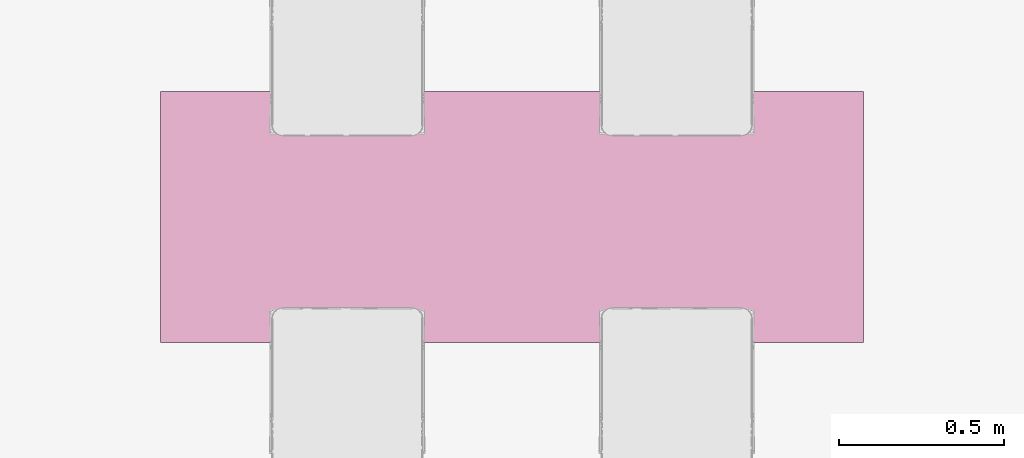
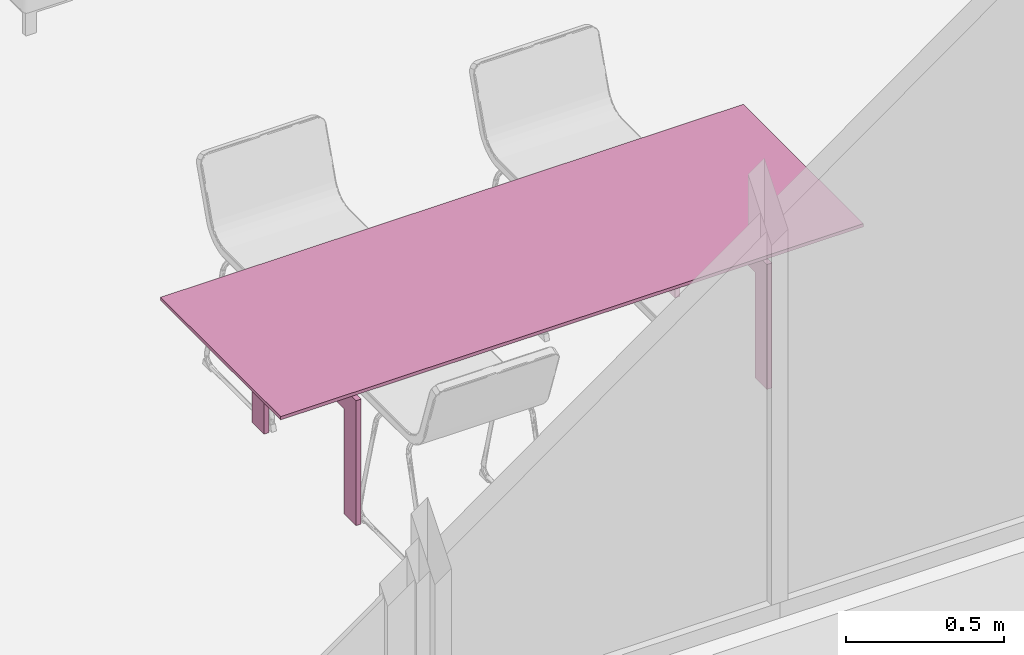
# One storey, part 27 of 40: 1 furnishing.
"""IFC2X3 building model written with IfcOpenShell, lengths in metres."""

from ifc_helpers import new_model, entity, si_unit, converted_unit, derived_unit, direction, frame, frame_2d, origin, origin_2d_with_axis, place, context, subcontext, project, spatial, polyline, rectangle, outline, extrude, source, transform, mapped, material, material_list, type_object, type_shapes, element, save


model = new_model("IFC2X3")

# Units and contexts
model_context = context("Model", 3, precision=1e-05, world=origin(), true_north=direction((6.12303176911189e-17, 1.0)))
body_context = subcontext(model_context, "Body", "Model", "MODEL_VIEW")
ifc_project = project(units=[si_unit("LENGTHUNIT", "METRE"), si_unit("AREAUNIT", "SQUARE_METRE"), si_unit("VOLUMEUNIT", "CUBIC_METRE"), converted_unit("PLANEANGLEUNIT", "DEGREE", entity("IfcRatioMeasure", 0.0174532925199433), si_unit("PLANEANGLEUNIT", "RADIAN"), dimensions=[0, 0, 0, 0, 0, 0, 0]), si_unit("MASSUNIT", "GRAM", prefix="KILO"), derived_unit("MASSDENSITYUNIT", [(si_unit("MASSUNIT", "GRAM", prefix="KILO"), 1), (si_unit("LENGTHUNIT", "METRE"), -3)]), si_unit("TIMEUNIT", "SECOND"), si_unit("FREQUENCYUNIT", "HERTZ"), si_unit("THERMODYNAMICTEMPERATUREUNIT", "DEGREE_CELSIUS"), derived_unit("THERMALTRANSMITTANCEUNIT", [(si_unit("MASSUNIT", "GRAM", prefix="KILO"), 1), (si_unit("THERMODYNAMICTEMPERATUREUNIT", "KELVIN"), -1), (si_unit("TIMEUNIT", "SECOND"), -3)]), derived_unit("VOLUMETRICFLOWRATEUNIT", [(si_unit("LENGTHUNIT", "METRE"), 3), (si_unit("TIMEUNIT", "SECOND"), -1)]), si_unit("ELECTRICCURRENTUNIT", "AMPERE"), si_unit("ELECTRICVOLTAGEUNIT", "VOLT"), si_unit("POWERUNIT", "WATT"), si_unit("FORCEUNIT", "NEWTON", prefix="KILO"), si_unit("ILLUMINANCEUNIT", "LUX"), si_unit("LUMINOUSFLUXUNIT", "LUMEN"), si_unit("LUMINOUSINTENSITYUNIT", "CANDELA"), derived_unit("USERDEFINED", [(si_unit("MASSUNIT", "GRAM", prefix="KILO"), -1), (si_unit("LENGTHUNIT", "METRE"), -2), (si_unit("TIMEUNIT", "SECOND"), 3), (si_unit("LUMINOUSFLUXUNIT", "LUMEN"), 1)]), derived_unit("LINEARVELOCITYUNIT", [(si_unit("LENGTHUNIT", "METRE"), 1), (si_unit("TIMEUNIT", "SECOND"), -1)]), si_unit("PRESSUREUNIT", "PASCAL"), derived_unit("USERDEFINED", [(si_unit("LENGTHUNIT", "METRE"), -2), (si_unit("MASSUNIT", "GRAM", prefix="KILO"), 1), (si_unit("TIMEUNIT", "SECOND"), -2)])], contexts=[model_context])

# Site, building, storey, space
site_placement = place(None, origin())
site = spatial("IfcSite", under=ifc_project, at=site_placement, Name="Surface", CompositionType="ELEMENT")
building_placement = place(site_placement, origin())
building = spatial("IfcBuilding", under=site, at=building_placement, CompositionType="ELEMENT")
storey_placement = place(building_placement, origin())
storey = spatial("IfcBuildingStorey", under=building, at=storey_placement, Name="RDC", CompositionType="ELEMENT", Elevation=-1.0941605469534e-13)
space_placement = place(storey_placement, origin())
space = spatial("IfcSpace", under=storey, at=space_placement, Name="20", CompositionType="ELEMENT", InteriorOrExteriorSpace="INTERNAL")

# Furnishing
ifc_material_1 = material(Name="Verre - Givré")
ifc_material_2 = material(Name="Métal - Chrome")
ifc_material_list_1 = material_list([ifc_material_1, ifc_material_2])
ifc_material_list_2 = material_list([ifc_material_1, ifc_material_2])
furniture_type = type_object("IfcFurnitureType", Name="762mm x 2134mm", material=ifc_material_list_2)
shared_shape = source(origin(), body_context, "Body", "SweptSolid", [
    extrude(rectangle(XDim=2.134, YDim=0.762000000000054, at=origin_2d_with_axis()), frame((0.0182657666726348, 0.0952110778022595, 0.5473), z_axis=(0.0, 0.0, 1.0), x_axis=(-1.0, 0.0, 0.0)), (0.0, 0.0, 1.0), 0.0127),
    extrude(rectangle(XDim=1.9308, YDim=0.0254, at=frame_2d((0.0, -1.73472347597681e-17), x_axis=(1.0, 0.0))), frame((0.0182657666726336, 0.285082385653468, 0.483800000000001), z_axis=(0.0, 0.0, 1.0), x_axis=(-1.0, 0.0, 0.0)), (0.0, 0.0, 1.0), 0.0635),
    extrude(rectangle(XDim=1.9308, YDim=0.0254, at=origin_2d_with_axis()), frame((0.0182657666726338, -0.0952889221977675, 0.4838), z_axis=(0.0, 0.0, 1.0), x_axis=(-1.0, 0.0, 0.0)), (0.0, 0.0, 1.0), 0.0635),
    extrude(outline(polyline([(-0.222849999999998, -0.330200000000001), (0.260949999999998, -0.330200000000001), (0.260949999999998, 0.330200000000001), (-0.222849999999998, 0.330200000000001), (-0.222849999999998, 0.254000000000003), (0.184749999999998, 0.254000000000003), (0.184749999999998, -0.254000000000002), (-0.222849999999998, -0.254000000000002), (-0.222849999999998, -0.330200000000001)])), frame((0.761415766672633, 0.0952110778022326, 0.222849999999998), z_axis=(1.0, 0.0, 0.0), x_axis=(0.0, 0.0, 1.0)), (0.0, 0.0, 1.0), 0.01905),
    extrude(outline(polyline([(-0.330200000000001, -0.26095), (0.330200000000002, -0.26095), (0.330200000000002, 0.222849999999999), (0.254000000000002, 0.222849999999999), (0.254000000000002, -0.184749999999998), (-0.254000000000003, -0.184749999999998), (-0.254000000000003, 0.222849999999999), (-0.330200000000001, 0.222849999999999), (-0.330200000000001, -0.26095)])), frame((-0.743934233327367, 0.095211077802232, 0.222849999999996), z_axis=(1.0, 0.0, 0.0), x_axis=(0.0, -1.0, 0.0)), (0.0, 0.0, 1.0), 0.01905),
])
type_shapes(furniture_type, [shared_shape])
furnishing_placement = place(space_placement, frame((4.69924534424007, 2.41179959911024, 0.0)))
element("IfcFurnishingElement", 1, at=furnishing_placement, inside=space, type_object=furniture_type, material=ifc_material_list_1, Name="Table de salle à manger - Rectangulaire:762mm x 2134mm", ObjectType="762mm x 2134mm", context=body_context, shape_type="MappedRepresentation", body=[
    mapped(shared_shape, transform((0.0, 0.0, 0.0), scale=1.0)),
])

save(model, "model.ifc")
